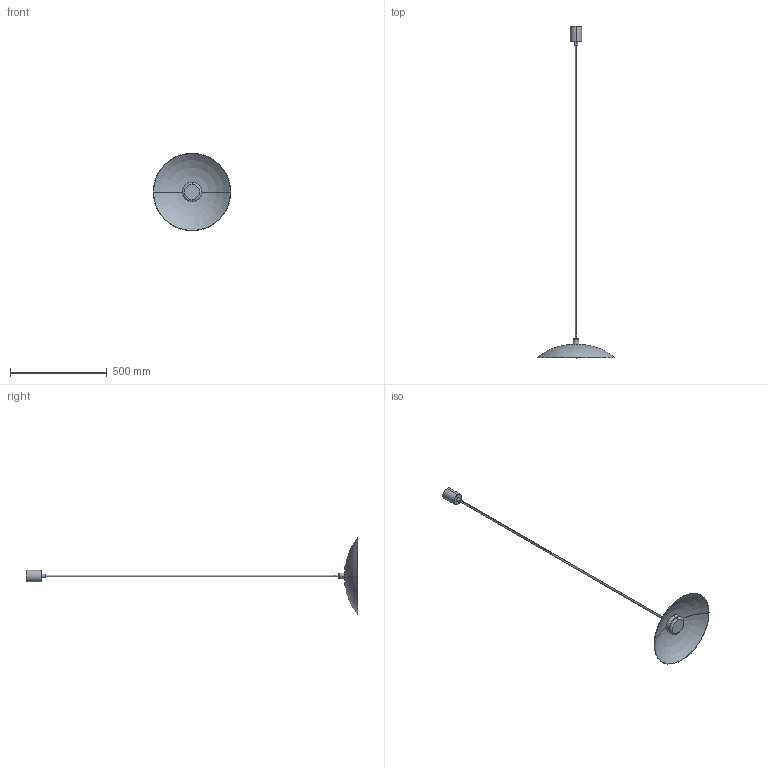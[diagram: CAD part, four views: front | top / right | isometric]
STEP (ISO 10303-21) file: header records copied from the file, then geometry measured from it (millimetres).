
FILE_DESCRIPTION (( 'STEP AP214' ), '1' );
FILE_NAME ('BETTY_C1338.STEP', '2025-01-17T15:13:27', ( '' ), ( '' ), 'SwSTEP 2.0', 'SolidWorks 2018', '' );
FILE_SCHEMA (( 'AUTOMOTIVE_DESIGN' ));
Length unit declared in the file: millimetre
Products named in the file (1): BETTY_C1338
Bounding box: 401.78 x 1719.57 x 401.78 mm (x, y, z)
Volume: 957650.8 mm3; surface area: 435363.8 mm2
Topology: 9 solids, 9 shells, 51 faces, 88 edges, 52 vertices
Faces by surface type: cylinder 18, plane 17, torus 16
Entity records: 1314 total; most frequent: DIRECTION 254, CARTESIAN_POINT 188, ORIENTED_EDGE 168, AXIS2_PLACEMENT_3D 118, EDGE_CURVE 84, CIRCLE 66, VERTEX_POINT 52, EDGE_LOOP 52
